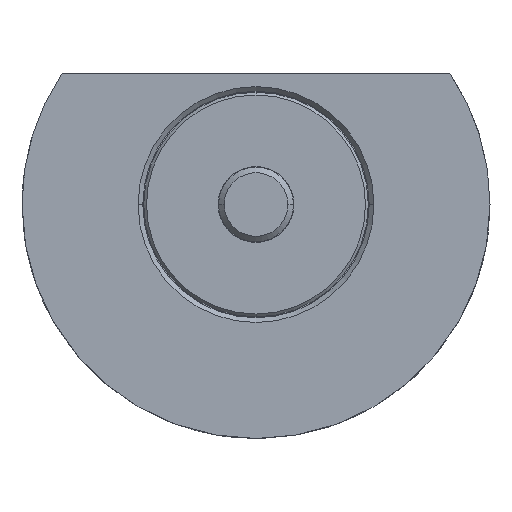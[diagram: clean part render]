
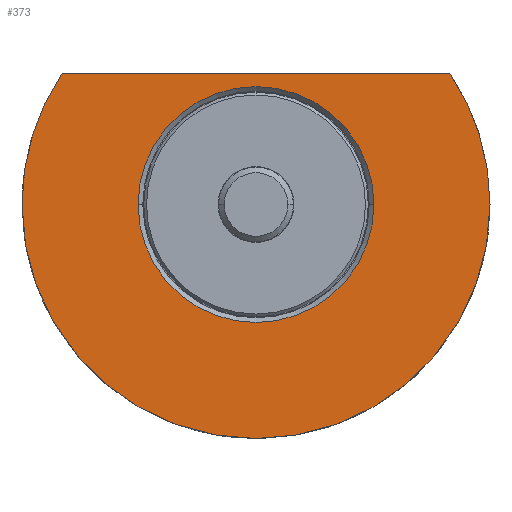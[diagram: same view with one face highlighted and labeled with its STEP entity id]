
A CAD part, front view. The second image highlights one B-rep face of the part: STEP entity #373.
In plain terms, the highlighted planar face has unit normal (0, -1, 0).
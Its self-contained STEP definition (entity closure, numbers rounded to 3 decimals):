
#4 = DIRECTION ( 'NONE',  ( -1., 0., 0. ) ) ;
#41 = CARTESIAN_POINT ( 'NONE',  ( -20.712, -12., 14. ) ) ;
#57 = CARTESIAN_POINT ( 'NONE',  ( 0., -12., 0. ) ) ;
#65 = CIRCLE ( 'NONE', #641, 12.6 ) ;
#198 = CARTESIAN_POINT ( 'NONE',  ( 0., -12., 0. ) ) ;
#209 = CARTESIAN_POINT ( 'NONE',  ( -12.6, -12., 0. ) ) ;
#212 = CARTESIAN_POINT ( 'NONE',  ( -12.6, -12., 0. ) ) ;
#219 = DIRECTION ( 'NONE',  ( 0., -1., 0. ) ) ;
#241 = FACE_OUTER_BOUND ( 'NONE', #1417, .T. ) ;
#284 = DIRECTION ( 'NONE',  ( 0., 1., 0. ) ) ;
#373 = ADVANCED_FACE ( 'NONE', ( #1113, #241 ), #1607, .T. ) ;
#399 = CIRCLE ( 'NONE', #1947, 25. ) ;
#418 = ORIENTED_EDGE ( 'NONE', *, *, #1721, .T. ) ;
#431 = AXIS2_PLACEMENT_3D ( 'NONE', #1452, #2428, #2050 ) ;
#436 = VECTOR ( 'NONE', #665, 1000. ) ;
#553 = VERTEX_POINT ( 'NONE', #2264 ) ;
#569 = EDGE_CURVE ( 'NONE', #1166, #2522, #1469, .T. ) ;
#641 = AXIS2_PLACEMENT_3D ( 'NONE', #742, #1367, #4 ) ;
#665 = DIRECTION ( 'NONE',  ( -1., 0., 0. ) ) ;
#707 = VERTEX_POINT ( 'NONE', #2487 ) ;
#740 = EDGE_LOOP ( 'NONE', ( #2035, #1060 ) ) ;
#742 = CARTESIAN_POINT ( 'NONE',  ( 0., -12., 0. ) ) ;
#754 = DIRECTION ( 'NONE',  ( 0., 1., 0. ) ) ;
#832 = DIRECTION ( 'NONE',  ( 1., 0., 0. ) ) ;
#848 = VERTEX_POINT ( 'NONE', #41 ) ;
#872 = DIRECTION ( 'NONE',  ( -1., 0., 0. ) ) ;
#876 = ORIENTED_EDGE ( 'NONE', *, *, #1608, .F. ) ;
#912 = CARTESIAN_POINT ( 'NONE',  ( 0., -12., 0. ) ) ;
#974 = AXIS2_PLACEMENT_3D ( 'NONE', #912, #284, #872 ) ;
#999 = ORIENTED_EDGE ( 'NONE', *, *, #1212, .F. ) ;
#1049 = LINE ( 'NONE', #2068, #436 ) ;
#1050 = AXIS2_PLACEMENT_3D ( 'NONE', #198, #754, #1946 ) ;
#1060 = ORIENTED_EDGE ( 'NONE', *, *, #569, .T. ) ;
#1062 = EDGE_CURVE ( 'NONE', #553, #1440, #2553, .T. ) ;
#1080 = DIRECTION ( 'NONE',  ( -1., 0., 0. ) ) ;
#1113 = FACE_BOUND ( 'NONE', #740, .T. ) ;
#1119 = EDGE_CURVE ( 'NONE', #2522, #1166, #65, .T. ) ;
#1166 = VERTEX_POINT ( 'NONE', #212 ) ;
#1200 = CARTESIAN_POINT ( 'NONE',  ( 12.6, -12., 0. ) ) ;
#1212 = EDGE_CURVE ( 'NONE', #1440, #848, #2110, .T. ) ;
#1367 = DIRECTION ( 'NONE',  ( 0., 1., 0. ) ) ;
#1407 = ORIENTED_EDGE ( 'NONE', *, *, #1062, .F. ) ;
#1417 = EDGE_LOOP ( 'NONE', ( #876, #418, #999, #1407 ) ) ;
#1440 = VERTEX_POINT ( 'NONE', #2516 ) ;
#1452 = CARTESIAN_POINT ( 'NONE',  ( 0., -12., 0. ) ) ;
#1469 = CIRCLE ( 'NONE', #431, 12.6 ) ;
#1470 = DIRECTION ( 'NONE',  ( 0., 1., 0. ) ) ;
#1607 = PLANE ( 'NONE',  #1939 ) ;
#1608 = EDGE_CURVE ( 'NONE', #707, #553, #399, .T. ) ;
#1721 = EDGE_CURVE ( 'NONE', #707, #848, #1049, .T. ) ;
#1939 = AXIS2_PLACEMENT_3D ( 'NONE', #209, #219, #832 ) ;
#1946 = DIRECTION ( 'NONE',  ( -1., 0., 0. ) ) ;
#1947 = AXIS2_PLACEMENT_3D ( 'NONE', #57, #1470, #1080 ) ;
#2035 = ORIENTED_EDGE ( 'NONE', *, *, #1119, .T. ) ;
#2050 = DIRECTION ( 'NONE',  ( -1., 0., 0. ) ) ;
#2068 = CARTESIAN_POINT ( 'NONE',  ( -12.6, -12., 14. ) ) ;
#2110 = CIRCLE ( 'NONE', #974, 25. ) ;
#2264 = CARTESIAN_POINT ( 'NONE',  ( 25., -12., 0. ) ) ;
#2428 = DIRECTION ( 'NONE',  ( 0., 1., 0. ) ) ;
#2487 = CARTESIAN_POINT ( 'NONE',  ( 20.712, -12., 14. ) ) ;
#2516 = CARTESIAN_POINT ( 'NONE',  ( -25., -12., 0. ) ) ;
#2522 = VERTEX_POINT ( 'NONE', #1200 ) ;
#2553 = CIRCLE ( 'NONE', #1050, 25. ) ;
